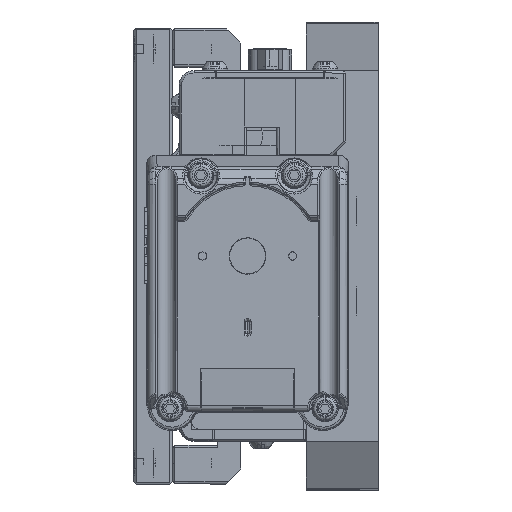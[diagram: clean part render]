
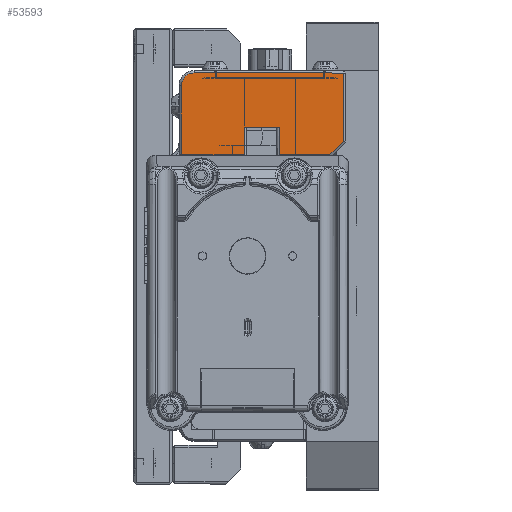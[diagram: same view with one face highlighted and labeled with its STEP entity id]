
A CAD part, left-side view. The second image highlights one B-rep face of the part: STEP entity #53593.
In plain terms, the highlighted planar face has unit normal (-1, 0, 0).
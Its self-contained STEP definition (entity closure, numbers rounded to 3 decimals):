
#1481 = DIRECTION ( 'NONE',  ( 0., 1., 0. ) ) ;
#4028 = ORIENTED_EDGE ( 'NONE', *, *, #92003, .T. ) ;
#4689 = DIRECTION ( 'NONE',  ( 0., 0., -1. ) ) ;
#4713 = EDGE_CURVE ( 'NONE', #45917, #132646, #64691, .T. ) ;
#6553 = EDGE_CURVE ( 'NONE', #132646, #9089, #18875, .T. ) ;
#7518 = VECTOR ( 'NONE', #40269, 1000. ) ;
#9089 = VERTEX_POINT ( 'NONE', #133829 ) ;
#11195 = DIRECTION ( 'NONE',  ( 0., 0., -1. ) ) ;
#11634 = AXIS2_PLACEMENT_3D ( 'NONE', #14295, #87089, #24921 ) ;
#12681 = VECTOR ( 'NONE', #97644, 1000. ) ;
#14295 = CARTESIAN_POINT ( 'NONE',  ( -73.66, 42.113, 78.486 ) ) ;
#16348 = ORIENTED_EDGE ( 'NONE', *, *, #23345, .T. ) ;
#17374 = DIRECTION ( 'NONE',  ( -1., 0., 0. ) ) ;
#17701 = CARTESIAN_POINT ( 'NONE',  ( -73.66, 38.938, 75.311 ) ) ;
#18875 = LINE ( 'NONE', #132622, #123449 ) ;
#23345 = EDGE_CURVE ( 'NONE', #77014, #92570, #32174, .T. ) ;
#24921 = DIRECTION ( 'NONE',  ( 0., 0., 1. ) ) ;
#26615 = DIRECTION ( 'NONE',  ( 0., -1., 0. ) ) ;
#32174 = CIRCLE ( 'NONE', #38310, 2.667 ) ;
#33992 = CARTESIAN_POINT ( 'NONE',  ( -73.66, 41.605, 75.311 ) ) ;
#34912 = ORIENTED_EDGE ( 'NONE', *, *, #74467, .T. ) ;
#36410 = VERTEX_POINT ( 'NONE', #75852 ) ;
#38310 = AXIS2_PLACEMENT_3D ( 'NONE', #17701, #17374, #11195 ) ;
#38668 = LINE ( 'NONE', #50203, #7518 ) ;
#38930 = ORIENTED_EDGE ( 'NONE', *, *, #96395, .T. ) ;
#40269 = DIRECTION ( 'NONE',  ( 0., 0., -1. ) ) ;
#42255 = DIRECTION ( 'NONE',  ( 0., 0., -1. ) ) ;
#42505 = EDGE_CURVE ( 'NONE', #121159, #127505, #55900, .T. ) ;
#44340 = CARTESIAN_POINT ( 'NONE',  ( -73.66, 20.904, 78.486 ) ) ;
#45345 = PLANE ( 'NONE',  #11634 ) ;
#45917 = VERTEX_POINT ( 'NONE', #108746 ) ;
#48525 = DIRECTION ( 'NONE',  ( 0., 0.707, -0.707 ) ) ;
#48544 = VECTOR ( 'NONE', #4689, 1000. ) ;
#49960 = CARTESIAN_POINT ( 'NONE',  ( -73.66, 38.938, 77.978 ) ) ;
#50203 = CARTESIAN_POINT ( 'NONE',  ( -73.66, 41.605, 78.486 ) ) ;
#50633 = CARTESIAN_POINT ( 'NONE',  ( -73.66, 7.315, 63.583 ) ) ;
#51096 = EDGE_CURVE ( 'NONE', #9089, #121159, #128580, .T. ) ;
#52569 = EDGE_LOOP ( 'NONE', ( #38930, #72847, #78552, #93369, #97749, #113767, #135477, #4028, #16348, #34912 ) ) ;
#53593 = ADVANCED_FACE ( 'NONE', ( #123098 ), #45345, .T. ) ;
#55900 = LINE ( 'NONE', #75426, #108089 ) ;
#56238 = CARTESIAN_POINT ( 'NONE',  ( -73.66, 7.315, 78.486 ) ) ;
#62185 = CARTESIAN_POINT ( 'NONE',  ( -73.66, 20.904, 60.706 ) ) ;
#63950 = CARTESIAN_POINT ( 'NONE',  ( -73.66, 42.113, 77.978 ) ) ;
#64691 = LINE ( 'NONE', #103359, #12681 ) ;
#66266 = VERTEX_POINT ( 'NONE', #50633 ) ;
#68291 = VECTOR ( 'NONE', #1481, 1000. ) ;
#70607 = VECTOR ( 'NONE', #26615, 1000. ) ;
#72847 = ORIENTED_EDGE ( 'NONE', *, *, #4713, .T. ) ;
#74467 = EDGE_CURVE ( 'NONE', #92570, #36410, #38668, .T. ) ;
#74993 = DIRECTION ( 'NONE',  ( 0., -1., 0. ) ) ;
#75426 = CARTESIAN_POINT ( 'NONE',  ( -73.66, 42.113, 60.706 ) ) ;
#75852 = CARTESIAN_POINT ( 'NONE',  ( -73.66, 41.605, 60.706 ) ) ;
#75971 = LINE ( 'NONE', #56238, #48544 ) ;
#77014 = VERTEX_POINT ( 'NONE', #49960 ) ;
#78268 = VERTEX_POINT ( 'NONE', #117429 ) ;
#78552 = ORIENTED_EDGE ( 'NONE', *, *, #6553, .T. ) ;
#80941 = CARTESIAN_POINT ( 'NONE',  ( -73.66, 28.27, 66.548 ) ) ;
#84185 = EDGE_CURVE ( 'NONE', #66266, #127505, #124463, .T. ) ;
#87089 = DIRECTION ( 'NONE',  ( -1., 0., 0. ) ) ;
#88804 = CARTESIAN_POINT ( 'NONE',  ( -73.66, 42.113, 60.706 ) ) ;
#92003 = EDGE_CURVE ( 'NONE', #78268, #77014, #92901, .T. ) ;
#92570 = VERTEX_POINT ( 'NONE', #33992 ) ;
#92901 = LINE ( 'NONE', #63950, #68291 ) ;
#93369 = ORIENTED_EDGE ( 'NONE', *, *, #51096, .T. ) ;
#93821 = EDGE_CURVE ( 'NONE', #78268, #66266, #75971, .T. ) ;
#95791 = CARTESIAN_POINT ( 'NONE',  ( -73.66, 10.193, 60.706 ) ) ;
#96395 = EDGE_CURVE ( 'NONE', #36410, #45917, #123366, .T. ) ;
#96419 = VECTOR ( 'NONE', #48525, 1000. ) ;
#97644 = DIRECTION ( 'NONE',  ( 0., 0., 1. ) ) ;
#97749 = ORIENTED_EDGE ( 'NONE', *, *, #42505, .T. ) ;
#100430 = VECTOR ( 'NONE', #42255, 1000. ) ;
#100438 = CARTESIAN_POINT ( 'NONE',  ( -73.66, 7.315, 63.583 ) ) ;
#103359 = CARTESIAN_POINT ( 'NONE',  ( -73.66, 28.27, 78.486 ) ) ;
#108089 = VECTOR ( 'NONE', #74993, 1000. ) ;
#108746 = CARTESIAN_POINT ( 'NONE',  ( -73.66, 28.27, 60.706 ) ) ;
#113767 = ORIENTED_EDGE ( 'NONE', *, *, #84185, .F. ) ;
#117429 = CARTESIAN_POINT ( 'NONE',  ( -73.66, 7.315, 77.978 ) ) ;
#121159 = VERTEX_POINT ( 'NONE', #62185 ) ;
#123098 = FACE_OUTER_BOUND ( 'NONE', #52569, .T. ) ;
#123366 = LINE ( 'NONE', #88804, #70607 ) ;
#123449 = VECTOR ( 'NONE', #131048, 1000. ) ;
#124463 = LINE ( 'NONE', #100438, #96419 ) ;
#127505 = VERTEX_POINT ( 'NONE', #95791 ) ;
#128580 = LINE ( 'NONE', #44340, #100430 ) ;
#131048 = DIRECTION ( 'NONE',  ( 0., -1., 0. ) ) ;
#132622 = CARTESIAN_POINT ( 'NONE',  ( -73.66, 42.113, 66.548 ) ) ;
#132646 = VERTEX_POINT ( 'NONE', #80941 ) ;
#133829 = CARTESIAN_POINT ( 'NONE',  ( -73.66, 20.904, 66.548 ) ) ;
#135477 = ORIENTED_EDGE ( 'NONE', *, *, #93821, .F. ) ;
